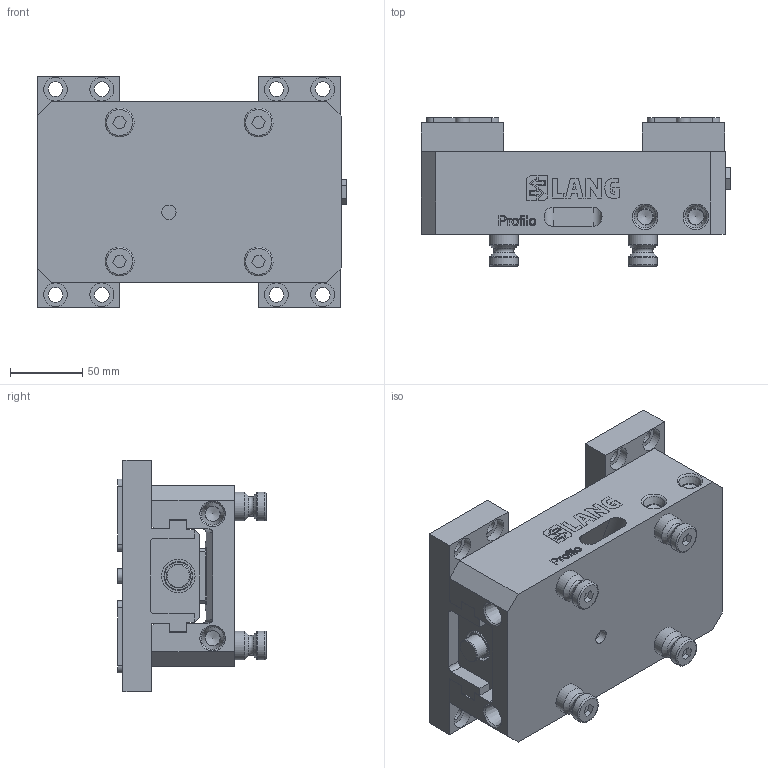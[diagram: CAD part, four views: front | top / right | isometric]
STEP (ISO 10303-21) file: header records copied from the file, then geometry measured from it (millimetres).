
FILE_DESCRIPTION (( 'STEP AP214' ), '1' );
FILE_NAME ('49100-125.STEP', '2020-03-13T14:19:02', ( '' ), ( '' ), 'SwSTEP 2.0', 'SolidWorks 2019', '' );
FILE_SCHEMA (( 'AUTOMOTIVE_DESIGN' ));
Length unit declared in the file: millimetre
Products named in the file (3): 49125; 49100-125; Profilo_49100-125
Assembly tree (3 placements, depth 2):
  49100-125
    Profilo_49100-125
    49125  x2
Bounding box: 214 x 102.51 x 160 mm (x, y, z)
Volume: 1486780.8 mm3; surface area: 237129.2 mm2
Topology: 40 solids, 40 shells, 798 faces, 1963 edges, 1286 vertices
Faces by surface type: plane 547, bspline 102, cylinder 86, cone 47, torus 16
Full cylindrical faces by diameter (mm): 8.5 x8, 10 x1, 10.2 x8, 16 x8, 16.5 x9, 20 x12, 23 x4
Entity records: 32197 total; most frequent: CARTESIAN_POINT 7754, ORIENTED_EDGE 3306, DIRECTION 2852, EDGE_CURVE 1653, VECTOR 1258, LINE 1258, VERTEX_POINT 1139, EDGE_LOOP 890
